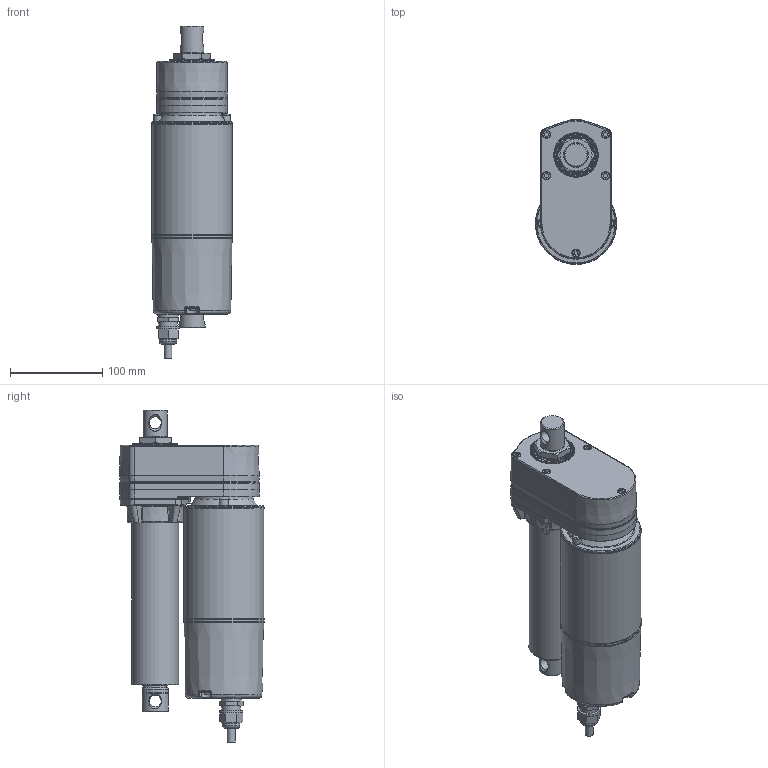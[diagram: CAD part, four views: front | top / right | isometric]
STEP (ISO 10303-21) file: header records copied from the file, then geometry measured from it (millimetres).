
FILE_DESCRIPTION (( 'STEP AP203' ), '1' );
FILE_NAME ('IA5-BALL-Standard-102.STEP', '2019-02-27T09:08:51', ( '' ), ( '' ), 'SwSTEP 2.0', 'SolidWorks 2015', '' );
FILE_SCHEMA (( 'CONFIG_CONTROL_DESIGN' ));
Length unit declared in the file: millimetre
Products named in the file (3): IA05-B-2; IA5-BALL-Standard-102; IA05-B-1
Assembly tree (2 placements, depth 2):
  IA5-BALL-Standard-102
    IA05-B-1
    IA05-B-2
Bounding box: 88 x 157.08 x 360.4 mm (x, y, z)
Volume: 2363583.7 mm3; surface area: 181933.3 mm2
Topology: 2 solids, 2 shells, 978 faces, 2516 edges, 1574 vertices
Faces by surface type: plane 567, cylinder 168, bspline 106, torus 91, cone 40, sphere 6
Full cylindrical faces by diameter (mm): 7 x3, 8.5 x6, 9 x5, 13 x2, 19 x1, 20 x1, 22 x1, 25 x1, 26 x1, 28 x1, 28.1 x1, 28.6 x4, 28.64 x1, 48.2 x1, 50.8 x1, 63.5 x1, 87 x3, 88 x3
Entity records: 33077 total; most frequent: CARTESIAN_POINT 11725, ORIENTED_EDGE 4848, DIRECTION 3908, EDGE_CURVE 2424, VERTEX_POINT 1554, AXIS2_PLACEMENT_3D 1481, EDGE_LOOP 1086, FACE_OUTER_BOUND 1031
